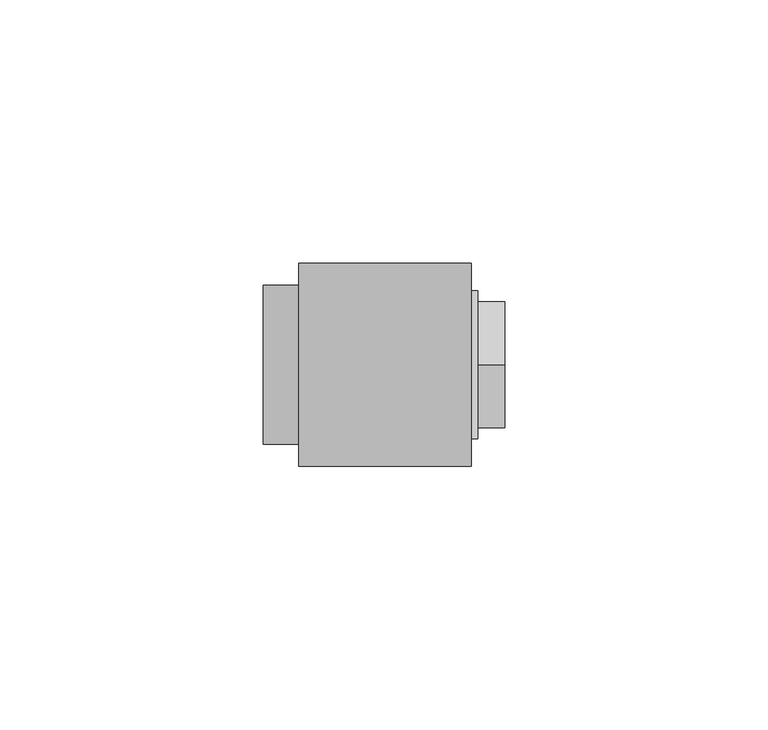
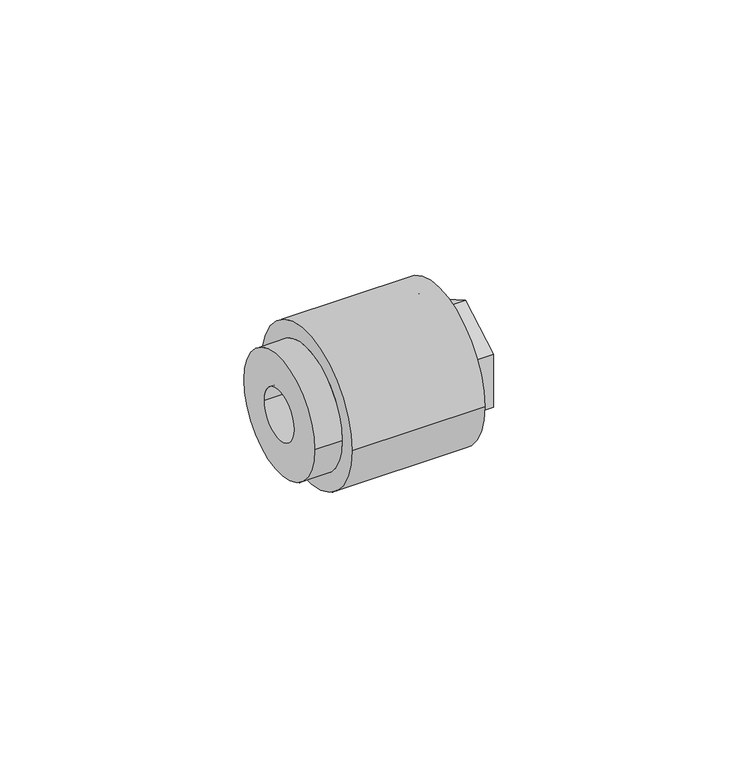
"""IFC4 building model written with IfcOpenShell, lengths in millimetres: pipe fitting geometry, Aquatherm - Fusion Outlet Transition Female : POTABLE BRASS - HEX."""

from ifc_helpers import new_model, si_unit, frame, origin, place, context, project, spatial, polyline, circle_curve, source, transform, mapped, element, save
from ifc_brep_helpers import plane_surface, cylinder_surface, revolved_surface, advanced_brep


def pipe_fitting_ee6af49b(model_context):
    return source(origin(), model_context, "Body", "AdvancedBrep", [
        advanced_brep(
        [(26.416, 9.525, 0.0), (26.416, -9.525, 0.0), (36.5363125, -9.525, 0.0), (36.5363125, 9.525, 0.0), (26.416, 10.31875, 0.0), (26.416, -10.31875, 0.0), (23.241, 10.31875, 0.0), (23.241, -10.31875, 0.0), (23.241, 6.35, 0.0), (23.241, -6.35, 0.0), (20.066, 6.35, 0.0), (20.066, -6.35, 0.0), (20.066, 15.113, 0.0), (20.066, -15.113, 0.0), (32.766, 15.113, 0.0), (32.766, -15.113, 0.0), (39.116, 10.31875, 0.0), (39.116, -10.31875, 0.0), (39.116, -11.938, 0.0), (39.116, -11.938, -6.8924075), (39.116, 0.0, -13.784815), (39.116, 11.938, -6.8924075), (39.116, 11.938, 0.0), (39.116, 11.938, 6.8924075), (39.116, 0.0, 13.784815), (39.116, -11.938, 6.8924075), (32.766, 14.097, 0.0), (32.766, -14.097, 0.0), (33.956625, 14.097, 0.0), (33.956625, -14.097, 0.0), (33.956625, 0.0, -13.784815), (33.956625, -11.938, -6.8924075), (33.956625, -11.938, 6.8924075), (33.956625, 0.0, 13.784815), (33.956625, 11.938, 6.8924075), (33.956625, 11.938, -6.8924075)],
        [
            (0, 1, circle_curve(frame((26.416, 0.0, 0.0), z_axis=(-1.0, 0.0, 0.0), x_axis=(0.0, -1.0, 0.0)), 9.525)),
            (1, 2),
            (2, 3, circle_curve(frame((36.5363125, 0.0, 0.0), z_axis=(1.0, 0.0, 0.0), x_axis=(0.0, -1.0, 0.0)), 9.525)),
            (3, 0),
            (1, 0, circle_curve(frame((26.416, 0.0, 0.0), z_axis=(-1.0, 0.0, 0.0), x_axis=(0.0, -1.0, 0.0)), 9.525)),
            (3, 2, circle_curve(frame((36.5363125, 0.0, 0.0), z_axis=(1.0, 0.0, 0.0), x_axis=(0.0, -1.0, 0.0)), 9.525)),
            (0, 4),
            (4, 5, circle_curve(frame((26.416, 0.0, 0.0), z_axis=(-1.0, 0.0, 0.0), x_axis=(0.0, -1.0, 0.0)), 10.31875)),
            (5, 1),
            (5, 4, circle_curve(frame((26.416, 0.0, 0.0), z_axis=(-1.0, 0.0, 0.0), x_axis=(0.0, -1.0, 0.0)), 10.31875)),
            (4, 6),
            (6, 7, circle_curve(frame((23.241, 0.0, 0.0), z_axis=(-1.0, 0.0, 0.0), x_axis=(0.0, -1.0, 0.0)), 10.31875)),
            (7, 5),
            (7, 6, circle_curve(frame((23.241, 0.0, 0.0), z_axis=(-1.0, 0.0, 0.0), x_axis=(0.0, -1.0, 0.0)), 10.31875)),
            (6, 8),
            (8, 9, circle_curve(frame((23.241, 0.0, 0.0), z_axis=(-1.0, 0.0, 0.0), x_axis=(0.0, -1.0, 0.0)), 6.35)),
            (9, 7),
            (9, 8, circle_curve(frame((23.241, 0.0, 0.0), z_axis=(-1.0, 0.0, 0.0), x_axis=(0.0, -1.0, 0.0)), 6.35)),
            (8, 10),
            (10, 11, circle_curve(frame((20.066, 0.0, 0.0), z_axis=(-1.0, 0.0, 0.0), x_axis=(0.0, -1.0, 0.0)), 6.35)),
            (11, 9),
            (11, 10, circle_curve(frame((20.066, 0.0, 0.0), z_axis=(-1.0, 0.0, 0.0), x_axis=(0.0, -1.0, 0.0)), 6.35)),
            (10, 12),
            (12, 13, circle_curve(frame((20.066, 0.0, 0.0), z_axis=(-1.0, 0.0, 0.0), x_axis=(0.0, -1.0, 0.0)), 15.113)),
            (13, 11),
            (13, 12, circle_curve(frame((20.066, 0.0, 0.0), z_axis=(-1.0, 0.0, 0.0), x_axis=(0.0, -1.0, 0.0)), 15.113)),
            (12, 14),
            (14, 15, circle_curve(frame((32.766, 0.0, 0.0), z_axis=(-1.0, 0.0, 0.0), x_axis=(0.0, -1.0, 0.0)), 15.113)),
            (15, 13),
            (15, 14, circle_curve(frame((32.766, 0.0, 0.0), z_axis=(-1.0, 0.0, 0.0), x_axis=(0.0, -1.0, 0.0)), 15.113)),
            (16, 17, circle_curve(frame((39.116, 0.0, 0.0), z_axis=(-1.0, 0.0, 0.0), x_axis=(0.0, -1.0, 0.0)), 10.31875)),
            (17, 18),
            (18, 19),
            (19, 20),
            (20, 21),
            (21, 22),
            (22, 16),
            (17, 16, circle_curve(frame((39.116, 0.0, 0.0), z_axis=(-1.0, 0.0, 0.0), x_axis=(0.0, -1.0, 0.0)), 10.31875)),
            (22, 23),
            (23, 24),
            (24, 25),
            (25, 18),
            (2, 17),
            (16, 3),
            (14, 26),
            (26, 27, circle_curve(frame((32.766, 0.0, 0.0), z_axis=(-1.0, 0.0, 0.0), x_axis=(0.0, -1.0, 0.0)), 14.097)),
            (27, 15),
            (27, 26, circle_curve(frame((32.766, 0.0, 0.0), z_axis=(-1.0, 0.0, 0.0), x_axis=(0.0, -1.0, 0.0)), 14.097)),
            (26, 28),
            (28, 29, circle_curve(frame((33.956625, 0.0, 0.0), z_axis=(-1.0, 0.0, 0.0), x_axis=(0.0, -1.0, 0.0)), 14.097)),
            (29, 27),
            (29, 28, circle_curve(frame((33.956625, 0.0, 0.0), z_axis=(-1.0, 0.0, 0.0), x_axis=(0.0, -1.0, 0.0)), 14.097)),
            (30, 31),
            (31, 32),
            (32, 33),
            (33, 34),
            (34, 35),
            (35, 30),
            (35, 21),
            (20, 30),
            (34, 23),
            (33, 24),
            (32, 25),
            (31, 19),
        ],
        [
            revolved_surface(polyline([(36.5363125, -9.525, 0.0), (26.416, -9.525, 0.0)]), (40.9492251, 0.0, 0.0), (1.0, 0.0, 0.0)),
            plane_surface(frame((26.416, 0.0, 0.0), z_axis=(-1.0, 0.0, 0.0), x_axis=(0.0, -1.0, 0.0))),
            revolved_surface(polyline([(26.416, -10.31875, 0.0), (23.241, -10.31875, 0.0)]), (40.9492251, 0.0, 0.0), (1.0, 0.0, 0.0)),
            plane_surface(frame((23.241, 0.0, 0.0), z_axis=(1.0, 0.0, 0.0), x_axis=(0.0, -1.0, 0.0))),
            revolved_surface(polyline([(23.241, -6.35, 0.0), (20.066, -6.35, 0.0)]), (40.9492251, 0.0, 0.0), (1.0, 0.0, 0.0)),
            plane_surface(frame((20.066, 0.0, 0.0), z_axis=(-1.0, 0.0, 0.0), x_axis=(0.0, -1.0, 0.0))),
            cylinder_surface(frame((40.9492251, 0.0, 0.0), z_axis=(1.0, 0.0, 0.0), x_axis=(0.0, -1.0, 0.0)), 15.113),
            plane_surface(frame((39.116, 0.0, 0.0), z_axis=(1.0, 0.0, 0.0), x_axis=(0.0, -1.0, 0.0))),
            revolved_surface(polyline([(39.116, -10.31875, 0.0), (36.5363125, -9.525, 0.0)]), (40.9492251, 0.0, 0.0), (1.0, 0.0, 0.0)),
            plane_surface(frame((32.766, 0.0, 0.0), z_axis=(1.0, 0.0, 0.0), x_axis=(0.0, -1.0, 0.0))),
            cylinder_surface(frame((40.9492251, 0.0, 0.0), z_axis=(1.0, 0.0, 0.0), x_axis=(0.0, -1.0, 0.0)), 14.097),
            plane_surface(frame((33.956625, 11.938, -6.8924075), z_axis=(1.0, 0.0, 0.0), x_axis=(0.0, 0.8660254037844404, 0.49999999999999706))),
            plane_surface(frame((33.956625, 0.0, -13.784815), z_axis=(0.0, 0.49999999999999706, -0.8660254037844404), x_axis=(1.0, 0.0, 0.0))),
            plane_surface(frame((33.956625, 11.938, -6.8924075), z_axis=(0.0, 1.0, 0.0), x_axis=(1.0, 0.0, 0.0))),
            plane_surface(frame((33.956625, 11.938, 6.8924075), z_axis=(0.0, 0.5000000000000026, 0.8660254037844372), x_axis=(1.0, 0.0, 0.0))),
            plane_surface(frame((33.956625, 0.0, 13.784815), z_axis=(0.0, -0.4999999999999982, 0.8660254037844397), x_axis=(1.0, 0.0, 0.0))),
            plane_surface(frame((33.956625, -11.938, 6.8924075), z_axis=(0.0, -1.0, 0.0), x_axis=(1.0, 0.0, 0.0))),
            plane_surface(frame((33.956625, -11.938, -6.8924075), z_axis=(0.0, -0.5000000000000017, -0.8660254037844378), x_axis=(1.0, 0.0, 0.0))),
        ],
        [
            (0, [[1, 2, 3, 4]]),
            (0, [[-2, 5, -4, 6]]),
            (1, [[-1, 7, 8, 9]]),
            (1, [[-5, -9, 10, -7]]),
            (2, [[-8, 11, 12, 13]]),
            (2, [[-10, -13, 14, -11]]),
            (3, [[-12, 15, 16, 17]]),
            (3, [[-14, -17, 18, -15]]),
            (4, [[-16, 19, 20, 21]]),
            (4, [[-18, -21, 22, -19]]),
            (5, [[-20, 23, 24, 25]]),
            (5, [[-22, -25, 26, -23]]),
            (6, [[-24, 27, 28, 29]]),
            (6, [[-26, -29, 30, -27]]),
            (7, [[31, 32, 33, 34, 35, 36, 37]]),
            (7, [[38, -37, 39, 40, 41, 42, -32]]),
            (8, [[-3, 43, -31, 44]]),
            (8, [[-6, -44, -38, -43]]),
            (9, [[-28, 45, 46, 47]]),
            (9, [[-30, -47, 48, -45]]),
            (10, [[-46, 49, 50, 51]]),
            (10, [[-48, -51, 52, -49]]),
            (11, [[-50, -52], [53, 54, 55, 56, 57, 58]]),
            (12, [[-58, 59, -35, 60]]),
            (13, [[-57, 61, -39, -36, -59]]),
            (14, [[-56, 62, -40, -61]]),
            (15, [[-55, 63, -41, -62]]),
            (16, [[-54, 64, -33, -42, -63]]),
            (17, [[-53, -60, -34, -64]]),
        ],
    ),
        advanced_brep(
        [(-6.7962162, 15.113, 0.0), (-6.7962162, -15.113, 0.0), (-6.7962162, 6.35, 0.0), (-6.7962162, -6.35, 0.0), (20.066, 15.113, 0.0), (20.066, -15.113, 0.0), (20.066, 6.35, 0.0), (20.066, -6.35, 0.0), (0.0, 15.113, 0.0), (0.0, -15.113, 0.0), (32.766, 19.304, 0.0), (32.766, -19.304, 0.0), (32.766, 15.113, 0.0), (32.766, -15.113, 0.0), (0.0, 19.304, 0.0), (0.0, -19.304, 0.0)],
        [
            (0, 1, circle_curve(frame((-6.7962162, 0.0, 0.0), z_axis=(-1.0, 0.0, 0.0), x_axis=(0.0, -1.0, 0.0)), 15.113)),
            (1, 0, circle_curve(frame((-6.7962162, 0.0, 0.0), z_axis=(-1.0, 0.0, 0.0), x_axis=(0.0, -1.0, 0.0)), 15.113)),
            (2, 3, circle_curve(frame((-6.7962162, 0.0, 0.0), z_axis=(1.0, 0.0, 0.0), x_axis=(0.0, -1.0, 0.0)), 6.35)),
            (3, 2, circle_curve(frame((-6.7962162, 0.0, 0.0), z_axis=(1.0, 0.0, 0.0), x_axis=(0.0, -1.0, 0.0)), 6.35)),
            (4, 5, circle_curve(frame((20.066, 0.0, 0.0), z_axis=(1.0, 0.0, 0.0), x_axis=(0.0, -1.0, 0.0)), 15.113)),
            (5, 4, circle_curve(frame((20.066, 0.0, 0.0), z_axis=(1.0, 0.0, 0.0), x_axis=(0.0, -1.0, 0.0)), 15.113)),
            (6, 7, circle_curve(frame((20.066, 0.0, 0.0), z_axis=(-1.0, 0.0, 0.0), x_axis=(0.0, -1.0, 0.0)), 6.35)),
            (7, 6, circle_curve(frame((20.066, 0.0, 0.0), z_axis=(-1.0, 0.0, 0.0), x_axis=(0.0, -1.0, 0.0)), 6.35)),
            (2, 6),
            (7, 3),
            (0, 8),
            (8, 9, circle_curve(frame((0.0, 0.0, 0.0), z_axis=(-1.0, 0.0, 0.0), x_axis=(0.0, -1.0, 0.0)), 15.113)),
            (9, 1),
            (9, 8, circle_curve(frame((0.0, 0.0, 0.0), z_axis=(-1.0, 0.0, 0.0), x_axis=(0.0, -1.0, 0.0)), 15.113)),
            (10, 11, circle_curve(frame((32.766, 0.0, 0.0), z_axis=(1.0, 0.0, 0.0), x_axis=(0.0, -1.0, 0.0)), 19.304)),
            (11, 10, circle_curve(frame((32.766, 0.0, 0.0), z_axis=(1.0, 0.0, 0.0), x_axis=(0.0, -1.0, 0.0)), 19.304)),
            (12, 13, circle_curve(frame((32.766, 0.0, 0.0), z_axis=(-1.0, 0.0, 0.0), x_axis=(0.0, -1.0, 0.0)), 15.113)),
            (13, 12, circle_curve(frame((32.766, 0.0, 0.0), z_axis=(-1.0, 0.0, 0.0), x_axis=(0.0, -1.0, 0.0)), 15.113)),
            (14, 15, circle_curve(frame((0.0, 0.0, 0.0), z_axis=(-1.0, 0.0, 0.0), x_axis=(0.0, -1.0, 0.0)), 19.304)),
            (15, 14, circle_curve(frame((0.0, 0.0, 0.0), z_axis=(-1.0, 0.0, 0.0), x_axis=(0.0, -1.0, 0.0)), 19.304)),
            (13, 5),
            (4, 12),
            (11, 15),
            (14, 10),
        ],
        [
            plane_surface(frame((-6.7962162, -6.35, 0.0), z_axis=(-1.0, 0.0, 0.0), x_axis=(0.0, 0.0, -1.0))),
            plane_surface(frame((20.066, -6.35, 0.0), z_axis=(1.0, 0.0, 0.0), x_axis=(0.0, 0.0, 1.0))),
            revolved_surface(polyline([(20.066, -6.35, 0.0), (-6.7962162, -6.35, 0.0)]), (20.066, 0.0, 0.0), (1.0, 0.0, 0.0)),
            cylinder_surface(frame((0.0, 0.0, 0.0), z_axis=(-1.0, 0.0, 0.0), x_axis=(0.0, -1.0, 0.0)), 15.113),
            plane_surface(frame((32.766, -15.113, 0.0), z_axis=(1.0, 0.0, 0.0), x_axis=(0.0, 0.0, 1.0))),
            plane_surface(frame((0.0, -15.113, 0.0), z_axis=(-1.0, 0.0, 0.0), x_axis=(0.0, 0.0, -1.0))),
            revolved_surface(polyline([(32.766, -15.113, 0.0), (20.066, -15.113, 0.0)]), (32.766, 0.0, 0.0), (1.0, 0.0, 0.0)),
            cylinder_surface(frame((0.0, 0.0, 0.0), z_axis=(-1.0, 0.0, 0.0), x_axis=(0.0, -1.0, 0.0)), 19.304),
        ],
        [
            (0, [[1, 2], [3, 4]]),
            (1, [[5, 6], [7, 8]]),
            (2, [[-3, 9, -8, 10]]),
            (2, [[-4, -10, -7, -9]]),
            (3, [[-1, 11, 12, 13]]),
            (3, [[-2, -13, 14, -11]]),
            (4, [[15, 16], [17, 18]]),
            (5, [[19, 20], [-12, -14]]),
            (6, [[-18, 21, -5, 22]]),
            (6, [[-17, -22, -6, -21]]),
            (7, [[-16, 23, -19, 24]]),
            (7, [[-15, -24, -20, -23]]),
        ],
    ),
    ])


if __name__ == "__main__":
    model = new_model("IFC4")
    model_context = context("Model", 3, world=origin())
    ifc_project = project(units=[si_unit("LENGTHUNIT", "METRE", prefix="MILLI")], contexts=[model_context])
    site = spatial("IfcSite", under=ifc_project)
    building = spatial("IfcBuilding", under=site)
    placement = place(None, origin())
    pipe_fitting_shape = pipe_fitting_ee6af49b(model_context)
    element("IfcPipeFitting", 1, ObjectType="Aquatherm - Fusion Outlet Transition Female : POTABLE BRASS - HEX", at=placement, inside=building, context=model_context, shape_type="MappedRepresentation", body=[
        mapped(pipe_fitting_shape, transform((0.0, 0.0, 0.0), x_axis=(1.0, 0.0, 0.0), y_axis=(0.0, 1.0, 0.0), z_axis=(0.0, 0.0, 1.0))),
    ])
    save(model, "model.ifc")
